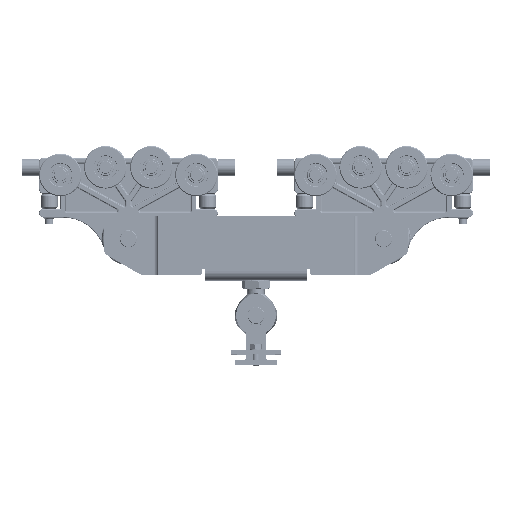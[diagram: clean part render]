
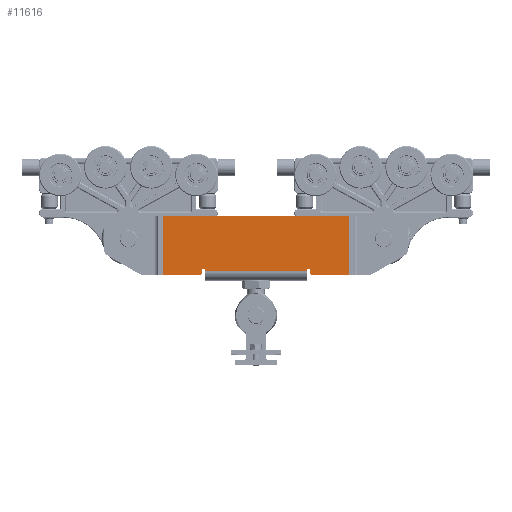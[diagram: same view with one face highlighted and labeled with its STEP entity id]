
A CAD part, top view. The second image highlights one B-rep face of the part: STEP entity #11616.
In plain terms, the highlighted planar face has unit normal (0, 0, 1).
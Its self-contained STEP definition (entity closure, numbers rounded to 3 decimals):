
#626 = DIRECTION ( 'NONE',  ( 1., 0., 0. ) ) ;
#628 = CARTESIAN_POINT ( 'NONE',  ( -110., 62., 68.5 ) ) ;
#637 = DIRECTION ( 'NONE',  ( 1., 0., 0. ) ) ;
#641 = DIRECTION ( 'NONE',  ( 0., -1., 0. ) ) ;
#642 = CARTESIAN_POINT ( 'NONE',  ( -60., 65., 68.5 ) ) ;
#654 = CARTESIAN_POINT ( 'NONE',  ( 60., 70., 68.5 ) ) ;
#1984 = CARTESIAN_POINT ( 'NONE',  ( -60., 70., 68.5 ) ) ;
#1987 = DIRECTION ( 'NONE',  ( 0., 1., 0. ) ) ;
#5212 = DIRECTION ( 'NONE',  ( 0., -1., 0. ) ) ;
#5231 = CARTESIAN_POINT ( 'NONE',  ( -110., 70., 68.5 ) ) ;
#5233 = DIRECTION ( 'NONE',  ( 1., 0., 0. ) ) ;
#5279 = CARTESIAN_POINT ( 'NONE',  ( -67., 66., 68.5 ) ) ;
#5280 = DIRECTION ( 'NONE',  ( 0., 0., 1. ) ) ;
#5281 = DIRECTION ( 'NONE',  ( 0., -1., 0. ) ) ;
#5297 = CARTESIAN_POINT ( 'NONE',  ( -63., 70., 68.5 ) ) ;
#5299 = DIRECTION ( 'NONE',  ( 0., -1., 0. ) ) ;
#5326 = CARTESIAN_POINT ( 'NONE',  ( -110., 70., 68.5 ) ) ;
#5341 = DIRECTION ( 'NONE',  ( 1., 0., 0. ) ) ;
#5350 = CARTESIAN_POINT ( 'NONE',  ( -109., 70., 68.5 ) ) ;
#5352 = DIRECTION ( 'NONE',  ( 0., -1., 0. ) ) ;
#7170 = CARTESIAN_POINT ( 'NONE',  ( 67., 66., 68.5 ) ) ;
#7171 = DIRECTION ( 'NONE',  ( 0., 0., 1. ) ) ;
#7172 = DIRECTION ( 'NONE',  ( 0., -1., 0. ) ) ;
#7205 = CARTESIAN_POINT ( 'NONE',  ( 63., 70., 68.5 ) ) ;
#7206 = DIRECTION ( 'NONE',  ( 0., 1., 0. ) ) ;
#7223 = CARTESIAN_POINT ( 'NONE',  ( -110., 62., 68.5 ) ) ;
#7224 = DIRECTION ( 'NONE',  ( 1., 0., 0. ) ) ;
#7235 = CARTESIAN_POINT ( 'NONE',  ( -110., 0., 68.5 ) ) ;
#7236 = DIRECTION ( 'NONE',  ( 1., 0., 0. ) ) ;
#7253 = CARTESIAN_POINT ( 'NONE',  ( 109., 70., 68.5 ) ) ;
#10515 = ORIENTED_EDGE ( 'NONE', *, *, #29546, .F. ) ;
#10552 = ORIENTED_EDGE ( 'NONE', *, *, #29556, .F. ) ;
#10560 = ORIENTED_EDGE ( 'NONE', *, *, #29540, .T. ) ;
#10607 = ORIENTED_EDGE ( 'NONE', *, *, #29512, .T. ) ;
#10611 = ORIENTED_EDGE ( 'NONE', *, *, #29562, .T. ) ;
#10618 = ORIENTED_EDGE ( 'NONE', *, *, #29524, .F. ) ;
#10624 = ORIENTED_EDGE ( 'NONE', *, *, #29518, .F. ) ;
#10629 = ORIENTED_EDGE ( 'NONE', *, *, #29488, .T. ) ;
#10633 = ORIENTED_EDGE ( 'NONE', *, *, #29500, .F. ) ;
#10639 = ORIENTED_EDGE ( 'NONE', *, *, #29506, .F. ) ;
#10645 = ORIENTED_EDGE ( 'NONE', *, *, #29995, .F. ) ;
#10652 = ORIENTED_EDGE ( 'NONE', *, *, #29993, .F. ) ;
#10656 = ORIENTED_EDGE ( 'NONE', *, *, #29989, .F. ) ;
#10660 = ORIENTED_EDGE ( 'NONE', *, *, #29991, .F. ) ;
#11616 = ADVANCED_FACE ( 'NONE', ( #23382 ), #16480, .T. ) ;
#14039 = CARTESIAN_POINT ( 'NONE',  ( -60., 62., 68.5 ) ) ;
#14042 = CARTESIAN_POINT ( 'NONE',  ( 63., 66., 68.5 ) ) ;
#14047 = CARTESIAN_POINT ( 'NONE',  ( 60., 65., 68.5 ) ) ;
#14051 = CARTESIAN_POINT ( 'NONE',  ( 60., 62., 68.5 ) ) ;
#14052 = CARTESIAN_POINT ( 'NONE',  ( 109., 0., 68.5 ) ) ;
#14057 = CARTESIAN_POINT ( 'NONE',  ( -109., 0., 68.5 ) ) ;
#14059 = CARTESIAN_POINT ( 'NONE',  ( 67., 70., 68.5 ) ) ;
#14062 = CARTESIAN_POINT ( 'NONE',  ( -67., 70., 68.5 ) ) ;
#14067 = CARTESIAN_POINT ( 'NONE',  ( -109., 70., 68.5 ) ) ;
#14070 = CARTESIAN_POINT ( 'NONE',  ( 63., 62., 68.5 ) ) ;
#14073 = CARTESIAN_POINT ( 'NONE',  ( -63., 62., 68.5 ) ) ;
#14078 = CARTESIAN_POINT ( 'NONE',  ( 109., 70., 68.5 ) ) ;
#14121 = CARTESIAN_POINT ( 'NONE',  ( -63., 66., 68.5 ) ) ;
#14123 = CARTESIAN_POINT ( 'NONE',  ( -60., 65., 68.5 ) ) ;
#16465 = DIRECTION ( 'NONE',  ( 0., 0., 1. ) ) ;
#16473 = CARTESIAN_POINT ( 'NONE',  ( -110., 70., 68.5 ) ) ;
#16480 = PLANE ( 'NONE',  #32670 ) ;
#16482 = DIRECTION ( 'NONE',  ( -1., 0., 0. ) ) ;
#23382 = FACE_OUTER_BOUND ( 'NONE', #31207, .T. ) ;
#27582 = VERTEX_POINT ( 'NONE', #14039 ) ;
#27583 = VERTEX_POINT ( 'NONE', #14042 ) ;
#27585 = VERTEX_POINT ( 'NONE', #14047 ) ;
#27587 = VERTEX_POINT ( 'NONE', #14051 ) ;
#27588 = VERTEX_POINT ( 'NONE', #14052 ) ;
#27590 = VERTEX_POINT ( 'NONE', #14057 ) ;
#27591 = VERTEX_POINT ( 'NONE', #14059 ) ;
#27592 = VERTEX_POINT ( 'NONE', #14062 ) ;
#27594 = VERTEX_POINT ( 'NONE', #14067 ) ;
#27595 = VERTEX_POINT ( 'NONE', #14070 ) ;
#27596 = VERTEX_POINT ( 'NONE', #14073 ) ;
#27598 = VERTEX_POINT ( 'NONE', #14078 ) ;
#27614 = VERTEX_POINT ( 'NONE', #14121 ) ;
#27615 = VERTEX_POINT ( 'NONE', #14123 ) ;
#29488 = EDGE_CURVE ( 'NONE', #27591, #27583, #37158, .T. ) ;
#29500 = EDGE_CURVE ( 'NONE', #27595, #27583, #37178, .T. ) ;
#29506 = EDGE_CURVE ( 'NONE', #27587, #27595, #37185, .T. ) ;
#29512 = EDGE_CURVE ( 'NONE', #27590, #27588, #37195, .T. ) ;
#29518 = EDGE_CURVE ( 'NONE', #27598, #27588, #37204, .T. ) ;
#29524 = EDGE_CURVE ( 'NONE', #27591, #27598, #37210, .T. ) ;
#29540 = EDGE_CURVE ( 'NONE', #27614, #27592, #37231, .T. ) ;
#29546 = EDGE_CURVE ( 'NONE', #27614, #27596, #37238, .T. ) ;
#29556 = EDGE_CURVE ( 'NONE', #27594, #27592, #37249, .T. ) ;
#29562 = EDGE_CURVE ( 'NONE', #27594, #27590, #37258, .T. ) ;
#29989 = EDGE_CURVE ( 'NONE', #27582, #27615, #38007, .T. ) ;
#29991 = EDGE_CURVE ( 'NONE', #27596, #27582, #37997, .T. ) ;
#29993 = EDGE_CURVE ( 'NONE', #27615, #27585, #38018, .T. ) ;
#29995 = EDGE_CURVE ( 'NONE', #27585, #27587, #38027, .T. ) ;
#31207 = EDGE_LOOP ( 'NONE', ( #10515, #10560, #10552, #10611, #10607, #10624, #10618, #10629, #10633, #10639, #10645, #10652, #10656, #10660 ) ) ;
#32670 = AXIS2_PLACEMENT_3D ( 'NONE', #16473, #16465, #16482 ) ;
#37158 = CIRCLE ( 'NONE', #39126, 4. ) ;
#37178 = LINE ( 'NONE', #7205, #37181 ) ;
#37181 = VECTOR ( 'NONE', #7206, 1000. ) ;
#37185 = LINE ( 'NONE', #7223, #37187 ) ;
#37187 = VECTOR ( 'NONE', #7224, 1000. ) ;
#37195 = LINE ( 'NONE', #7235, #37198 ) ;
#37198 = VECTOR ( 'NONE', #7236, 1000. ) ;
#37203 = VECTOR ( 'NONE', #5212, 1000. ) ;
#37204 = LINE ( 'NONE', #7253, #37203 ) ;
#37210 = LINE ( 'NONE', #5231, #37211 ) ;
#37211 = VECTOR ( 'NONE', #5233, 1000. ) ;
#37231 = CIRCLE ( 'NONE', #38895, 4. ) ;
#37238 = LINE ( 'NONE', #5297, #37241 ) ;
#37241 = VECTOR ( 'NONE', #5299, 1000. ) ;
#37249 = LINE ( 'NONE', #5326, #37252 ) ;
#37252 = VECTOR ( 'NONE', #5341, 1000. ) ;
#37258 = LINE ( 'NONE', #5350, #37260 ) ;
#37260 = VECTOR ( 'NONE', #5352, 1000. ) ;
#37997 = LINE ( 'NONE', #628, #38024 ) ;
#38007 = LINE ( 'NONE', #1984, #38015 ) ;
#38015 = VECTOR ( 'NONE', #1987, 1000. ) ;
#38018 = LINE ( 'NONE', #642, #38033 ) ;
#38024 = VECTOR ( 'NONE', #637, 1000. ) ;
#38027 = LINE ( 'NONE', #654, #38041 ) ;
#38033 = VECTOR ( 'NONE', #626, 1000. ) ;
#38041 = VECTOR ( 'NONE', #641, 1000. ) ;
#38895 = AXIS2_PLACEMENT_3D ( 'NONE', #5279, #5280, #5281 ) ;
#39126 = AXIS2_PLACEMENT_3D ( 'NONE', #7170, #7171, #7172 ) ;
